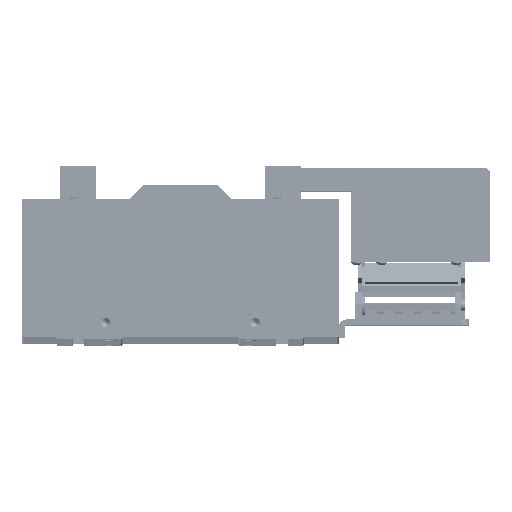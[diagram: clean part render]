
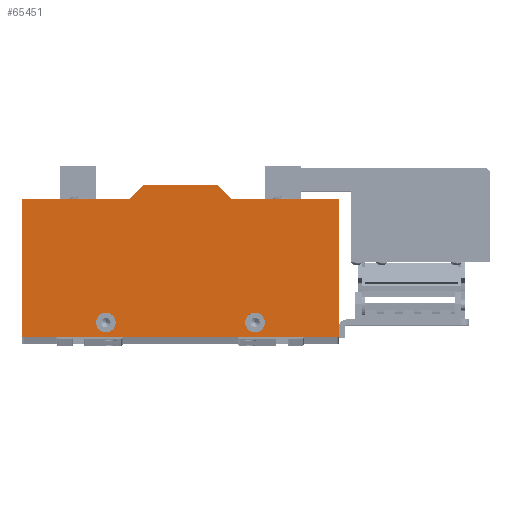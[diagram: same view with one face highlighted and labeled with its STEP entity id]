
A CAD part, top view. The second image highlights one B-rep face of the part: STEP entity #65451.
In plain terms, the highlighted planar face has unit normal (0, 0, 1).
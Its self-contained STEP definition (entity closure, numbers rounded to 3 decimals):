
#2110 = ORIENTED_EDGE ( 'NONE', *, *, #85943, .T. ) ;
#2253 = ORIENTED_EDGE ( 'NONE', *, *, #61286, .T. ) ;
#3027 = ORIENTED_EDGE ( 'NONE', *, *, #67239, .T. ) ;
#3133 = ORIENTED_EDGE ( 'NONE', *, *, #62465, .F. ) ;
#3351 = ORIENTED_EDGE ( 'NONE', *, *, #85422, .T. ) ;
#3388 = ORIENTED_EDGE ( 'NONE', *, *, #3391, .F. ) ;
#3391 = EDGE_CURVE ( 'NONE', #61391, #62104, #124756, .T. ) ;
#3421 = ORIENTED_EDGE ( 'NONE', *, *, #67467, .T. ) ;
#3543 = ORIENTED_EDGE ( 'NONE', *, *, #67661, .T. ) ;
#3549 = EDGE_CURVE ( 'NONE', #55639, #57652, #124987, .T. ) ;
#3589 = ORIENTED_EDGE ( 'NONE', *, *, #65014, .T. ) ;
#3604 = ORIENTED_EDGE ( 'NONE', *, *, #86060, .T. ) ;
#3677 = EDGE_LOOP ( 'NONE', ( #3388, #3133 ) ) ;
#55639 = VERTEX_POINT ( 'NONE', #84925 ) ;
#57002 = EDGE_CURVE ( 'NONE', #57652, #55639, #87782, .T. ) ;
#57652 = VERTEX_POINT ( 'NONE', #89038 ) ;
#61286 = EDGE_CURVE ( 'NONE', #61920, #62446, #95947, .T. ) ;
#61391 = VERTEX_POINT ( 'NONE', #96131 ) ;
#61920 = VERTEX_POINT ( 'NONE', #97142 ) ;
#62104 = VERTEX_POINT ( 'NONE', #97468 ) ;
#62446 = VERTEX_POINT ( 'NONE', #98224 ) ;
#62465 = EDGE_CURVE ( 'NONE', #62104, #61391, #98253, .T. ) ;
#63255 = VERTEX_POINT ( 'NONE', #100040 ) ;
#65014 = EDGE_CURVE ( 'NONE', #85952, #70194, #102565, .T. ) ;
#65451 = ADVANCED_FACE ( 'NONE', ( #103445, #103444, #103442 ), #103440, .T. ) ;
#66270 = VERTEX_POINT ( 'NONE', #105008 ) ;
#66289 = EDGE_LOOP ( 'NONE', ( #66415, #71142 ) ) ;
#66415 = ORIENTED_EDGE ( 'NONE', *, *, #3549, .F. ) ;
#67239 = EDGE_CURVE ( 'NONE', #68112, #61920, #106495, .T. ) ;
#67467 = EDGE_CURVE ( 'NONE', #85988, #66270, #107081, .T. ) ;
#67661 = EDGE_CURVE ( 'NONE', #66270, #68112, #107570, .T. ) ;
#68112 = VERTEX_POINT ( 'NONE', #108823 ) ;
#70194 = VERTEX_POINT ( 'NONE', #110445 ) ;
#70782 = EDGE_LOOP ( 'NONE', ( #2253, #2110, #3589, #3604, #3351, #3421, #3543, #3027 ) ) ;
#71142 = ORIENTED_EDGE ( 'NONE', *, *, #57002, .F. ) ;
#84925 = CARTESIAN_POINT ( 'NONE',  ( -34.75, -29., 9.525 ) ) ;
#85422 = EDGE_CURVE ( 'NONE', #63255, #85988, #119939, .T. ) ;
#85943 = EDGE_CURVE ( 'NONE', #62446, #85952, #120457, .T. ) ;
#85952 = VERTEX_POINT ( 'NONE', #120451 ) ;
#85988 = VERTEX_POINT ( 'NONE', #120437 ) ;
#86060 = EDGE_CURVE ( 'NONE', #70194, #63255, #120538, .T. ) ;
#87777 = DIRECTION ( 'NONE',  ( 1., 0., 0. ) ) ;
#87778 = DIRECTION ( 'NONE',  ( 0., 0., 1. ) ) ;
#87779 = CARTESIAN_POINT ( 'NONE',  ( -40., -29., 9.525 ) ) ;
#87780 = AXIS2_PLACEMENT_3D ( 'NONE', #87779, #87778, #87777 ) ;
#87782 = CIRCLE ( 'NONE', #87780, 5.25 ) ;
#89038 = CARTESIAN_POINT ( 'NONE',  ( -45.25, -29., 9.525 ) ) ;
#95944 = DIRECTION ( 'NONE',  ( 0., -1., 0. ) ) ;
#95945 = VECTOR ( 'NONE', #95944, 1000. ) ;
#95946 = CARTESIAN_POINT ( 'NONE',  ( -85., 37., 9.525 ) ) ;
#95947 = LINE ( 'NONE', #95946, #95945 ) ;
#96131 = CARTESIAN_POINT ( 'NONE',  ( 45.25, -29., 9.525 ) ) ;
#97142 = CARTESIAN_POINT ( 'NONE',  ( -85., 37., 9.525 ) ) ;
#97468 = CARTESIAN_POINT ( 'NONE',  ( 34.75, -29., 9.525 ) ) ;
#98224 = CARTESIAN_POINT ( 'NONE',  ( -85., -37., 9.525 ) ) ;
#98248 = DIRECTION ( 'NONE',  ( 1., 0., 0. ) ) ;
#98250 = DIRECTION ( 'NONE',  ( 0., 0., 1. ) ) ;
#98251 = CARTESIAN_POINT ( 'NONE',  ( 40., -29., 9.525 ) ) ;
#98252 = AXIS2_PLACEMENT_3D ( 'NONE', #98251, #98250, #98248 ) ;
#98253 = CIRCLE ( 'NONE', #98252, 5.25 ) ;
#100040 = CARTESIAN_POINT ( 'NONE',  ( 27.5, 37., 9.525 ) ) ;
#102548 = DIRECTION ( 'NONE',  ( 0., 1., 0. ) ) ;
#102549 = VECTOR ( 'NONE', #102548, 1000. ) ;
#102552 = CARTESIAN_POINT ( 'NONE',  ( 85., 37., 9.525 ) ) ;
#102565 = LINE ( 'NONE', #102552, #102549 ) ;
#103429 = DIRECTION ( 'NONE',  ( 1., 0., 0. ) ) ;
#103431 = DIRECTION ( 'NONE',  ( 0., 0., 1. ) ) ;
#103433 = CARTESIAN_POINT ( 'NONE',  ( -85., 37., 9.525 ) ) ;
#103435 = AXIS2_PLACEMENT_3D ( 'NONE', #103433, #103431, #103429 ) ;
#103440 = PLANE ( 'NONE',  #103435 ) ;
#103442 = FACE_OUTER_BOUND ( 'NONE', #70782, .T. ) ;
#103444 = FACE_BOUND ( 'NONE', #3677, .T. ) ;
#103445 = FACE_BOUND ( 'NONE', #66289, .T. ) ;
#105008 = CARTESIAN_POINT ( 'NONE',  ( -19.5, 45., 9.525 ) ) ;
#106490 = DIRECTION ( 'NONE',  ( -1., 0., 0. ) ) ;
#106492 = VECTOR ( 'NONE', #106490, 1000. ) ;
#106494 = CARTESIAN_POINT ( 'NONE',  ( -85., 37., 9.525 ) ) ;
#106495 = LINE ( 'NONE', #106494, #106492 ) ;
#107077 = DIRECTION ( 'NONE',  ( -1., 0., 0. ) ) ;
#107078 = VECTOR ( 'NONE', #107077, 1000. ) ;
#107080 = CARTESIAN_POINT ( 'NONE',  ( -19.5, 45., 9.525 ) ) ;
#107081 = LINE ( 'NONE', #107080, #107078 ) ;
#107563 = DIRECTION ( 'NONE',  ( -0.707, -0.707, 0. ) ) ;
#107566 = VECTOR ( 'NONE', #107563, 1000. ) ;
#107568 = CARTESIAN_POINT ( 'NONE',  ( -27.5, 37., 9.525 ) ) ;
#107570 = LINE ( 'NONE', #107568, #107566 ) ;
#108823 = CARTESIAN_POINT ( 'NONE',  ( -27.5, 37., 9.525 ) ) ;
#110445 = CARTESIAN_POINT ( 'NONE',  ( 85., 37., 9.525 ) ) ;
#119936 = DIRECTION ( 'NONE',  ( -0.707, 0.707, 0. ) ) ;
#119937 = VECTOR ( 'NONE', #119936, 1000. ) ;
#119938 = CARTESIAN_POINT ( 'NONE',  ( 19.5, 45., 9.525 ) ) ;
#119939 = LINE ( 'NONE', #119938, #119937 ) ;
#120437 = CARTESIAN_POINT ( 'NONE',  ( 19.5, 45., 9.525 ) ) ;
#120451 = CARTESIAN_POINT ( 'NONE',  ( 85., -37., 9.525 ) ) ;
#120453 = DIRECTION ( 'NONE',  ( 1., 0., 0. ) ) ;
#120454 = VECTOR ( 'NONE', #120453, 1000. ) ;
#120455 = CARTESIAN_POINT ( 'NONE',  ( -85., -37., 9.525 ) ) ;
#120457 = LINE ( 'NONE', #120455, #120454 ) ;
#120535 = DIRECTION ( 'NONE',  ( -1., 0., 0. ) ) ;
#120536 = VECTOR ( 'NONE', #120535, 1000. ) ;
#120537 = CARTESIAN_POINT ( 'NONE',  ( 27.5, 37., 9.525 ) ) ;
#120538 = LINE ( 'NONE', #120537, #120536 ) ;
#124751 = DIRECTION ( 'NONE',  ( 1., 0., 0. ) ) ;
#124753 = DIRECTION ( 'NONE',  ( 0., 0., 1. ) ) ;
#124754 = CARTESIAN_POINT ( 'NONE',  ( 40., -29., 9.525 ) ) ;
#124755 = AXIS2_PLACEMENT_3D ( 'NONE', #124754, #124753, #124751 ) ;
#124756 = CIRCLE ( 'NONE', #124755, 5.25 ) ;
#124981 = DIRECTION ( 'NONE',  ( 1., 0., 0. ) ) ;
#124983 = DIRECTION ( 'NONE',  ( 0., 0., 1. ) ) ;
#124984 = CARTESIAN_POINT ( 'NONE',  ( -40., -29., 9.525 ) ) ;
#124985 = AXIS2_PLACEMENT_3D ( 'NONE', #124984, #124983, #124981 ) ;
#124987 = CIRCLE ( 'NONE', #124985, 5.25 ) ;
